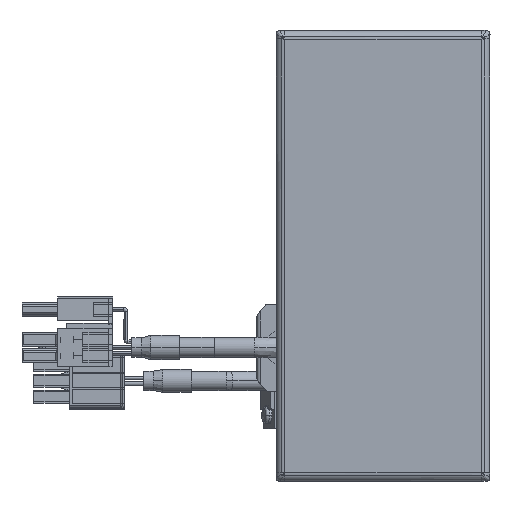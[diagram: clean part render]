
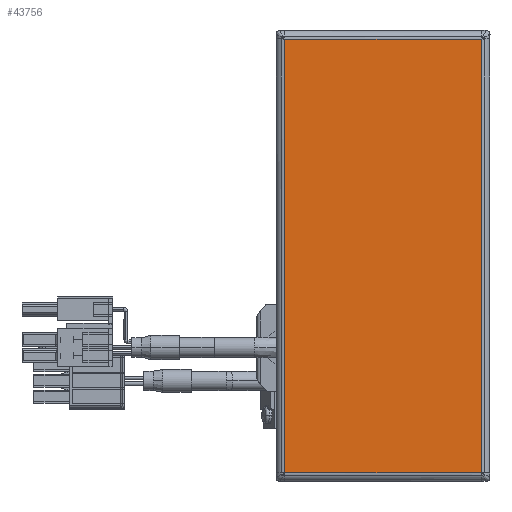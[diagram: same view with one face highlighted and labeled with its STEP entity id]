
A CAD part, top view. The second image highlights one B-rep face of the part: STEP entity #43756.
In plain terms, the highlighted planar face has unit normal (0, 0, 1) as drawn and (0, 0, -1) by its records, which use the part's own axes.
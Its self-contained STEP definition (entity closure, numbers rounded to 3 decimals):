
#4181 = CARTESIAN_POINT ( 'NONE',  ( 56.763, 25.793, -1.5 ) ) ;
#5517 = LINE ( 'NONE', #50165, #53193 ) ;
#9844 = ORIENTED_EDGE ( 'NONE', *, *, #27611, .T. ) ;
#10223 = CARTESIAN_POINT ( 'NONE',  ( 56.793, -25.763, -1.5 ) ) ;
#10325 = PLANE ( 'NONE',  #57513 ) ;
#10850 = LINE ( 'NONE', #4181, #58561 ) ;
#12115 = LINE ( 'NONE', #10223, #43173 ) ;
#14938 = DIRECTION ( 'NONE',  ( -1., 0., 0. ) ) ;
#18825 = EDGE_LOOP ( 'NONE', ( #56673, #9844, #38452, #48088 ) ) ;
#18882 = DIRECTION ( 'NONE',  ( 1., 0., 0. ) ) ;
#21299 = LINE ( 'NONE', #32802, #55288 ) ;
#22540 = DIRECTION ( 'NONE',  ( 0., -1., 0. ) ) ;
#23234 = CARTESIAN_POINT ( 'NONE',  ( 56.763, 25.763, -1.5 ) ) ;
#25966 = EDGE_CURVE ( 'NONE', #43687, #54322, #10850, .T. ) ;
#27307 = DIRECTION ( 'NONE',  ( 0., 1., 0. ) ) ;
#27611 = EDGE_CURVE ( 'NONE', #54322, #37248, #12115, .T. ) ;
#31584 = CARTESIAN_POINT ( 'NONE',  ( 56.763, -25.763, -1.5 ) ) ;
#32802 = CARTESIAN_POINT ( 'NONE',  ( -56.793, 25.763, -1.5 ) ) ;
#37248 = VERTEX_POINT ( 'NONE', #40840 ) ;
#38452 = ORIENTED_EDGE ( 'NONE', *, *, #45942, .T. ) ;
#40840 = CARTESIAN_POINT ( 'NONE',  ( -56.763, -25.763, -1.5 ) ) ;
#42636 = DIRECTION ( 'NONE',  ( 0., 0., -1. ) ) ;
#43173 = VECTOR ( 'NONE', #56255, 1000. ) ;
#43687 = VERTEX_POINT ( 'NONE', #23234 ) ;
#43756 = ADVANCED_FACE ( 'NONE', ( #51176 ), #10325, .T. ) ;
#45942 = EDGE_CURVE ( 'NONE', #37248, #48007, #5517, .T. ) ;
#48007 = VERTEX_POINT ( 'NONE', #57037 ) ;
#48088 = ORIENTED_EDGE ( 'NONE', *, *, #57928, .T. ) ;
#50165 = CARTESIAN_POINT ( 'NONE',  ( -56.763, -25.793, -1.5 ) ) ;
#51176 = FACE_OUTER_BOUND ( 'NONE', #18825, .T. ) ;
#51714 = CARTESIAN_POINT ( 'NONE',  ( 0., 0., -1.5 ) ) ;
#53193 = VECTOR ( 'NONE', #27307, 1000. ) ;
#54322 = VERTEX_POINT ( 'NONE', #31584 ) ;
#55288 = VECTOR ( 'NONE', #18882, 1000. ) ;
#56255 = DIRECTION ( 'NONE',  ( -1., 0., 0. ) ) ;
#56673 = ORIENTED_EDGE ( 'NONE', *, *, #25966, .T. ) ;
#57037 = CARTESIAN_POINT ( 'NONE',  ( -56.763, 25.763, -1.5 ) ) ;
#57513 = AXIS2_PLACEMENT_3D ( 'NONE', #51714, #42636, #14938 ) ;
#57928 = EDGE_CURVE ( 'NONE', #48007, #43687, #21299, .T. ) ;
#58561 = VECTOR ( 'NONE', #22540, 1000. ) ;
